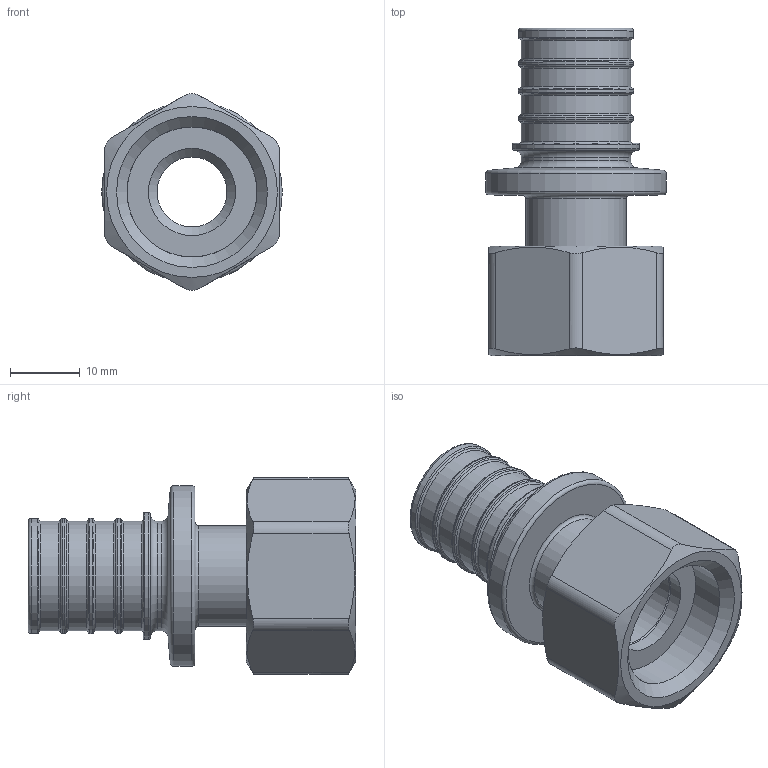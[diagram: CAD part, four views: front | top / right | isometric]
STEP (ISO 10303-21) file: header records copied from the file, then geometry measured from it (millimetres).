
FILE_DESCRIPTION(('STEP AP203'), '1');
FILE_NAME('ﾂﾐ.302612.016.000 ﾑﾁ - VTm.422.G.002004 ﾔ頸. - 裝', '2024-01-23T13:26:46', ('Boss'), (''), 'C3D Converter', 'C3D Toolkit', '');
FILE_SCHEMA(('CONFIG_CONTROL_DESIGN'));
Length unit declared in the file: millimetre
Products named in the file (5): ВР.302612.016.000 СБ; ВР.714651.008; ВР.758421.027; ВР.305323.015; ВР.753612.002
Assembly tree (4 placements, depth 2):
  ВР.302612.016.000 СБ
    ВР.714651.008
    ВР.758421.027
    ВР.305323.015
    ВР.753612.002
Bounding box: 25.9 x 46.95 x 28.24 mm (x, y, z)
Volume: 9086 mm3; surface area: 8151.1 mm2
Topology: 4 solids, 4 shells, 92 faces, 185 edges, 107 vertices
Faces by surface type: torus 32, cylinder 28, plane 20, cone 12
Full cylindrical faces by diameter (mm): 10 x1, 12.5 x3, 14.4 x1, 15.7 x5, 16.5 x5, 18.2 x1, 18.6 x1, 18.632 x2, 18.7 x1, 20.7 x1, 25.9 x1
Entity records: 3386 total; most frequent: CARTESIAN_POINT 1457, DIRECTION 372, ORIENTED_EDGE 246, AXIS2_PLACEMENT_3D 180, EDGE_LOOP 166, EDGE_CURVE 123, FACE_OUTER_BOUND 116, VERTEX_POINT 107
